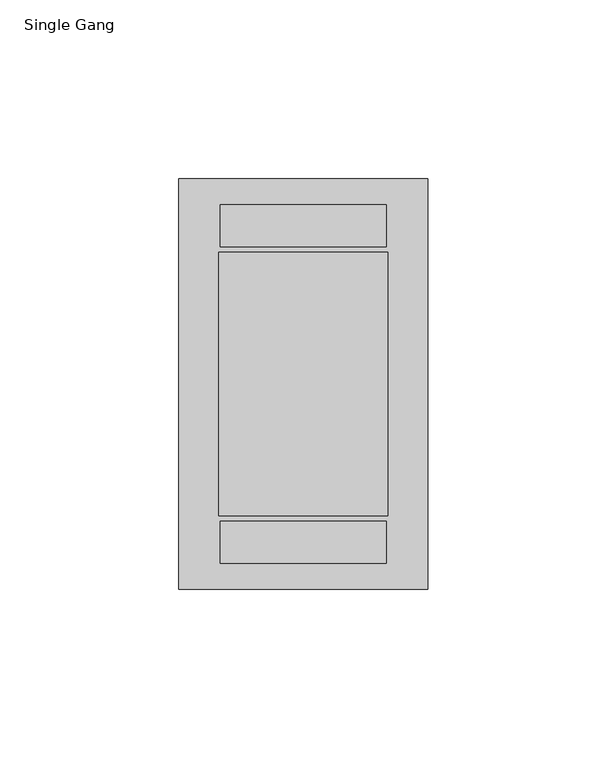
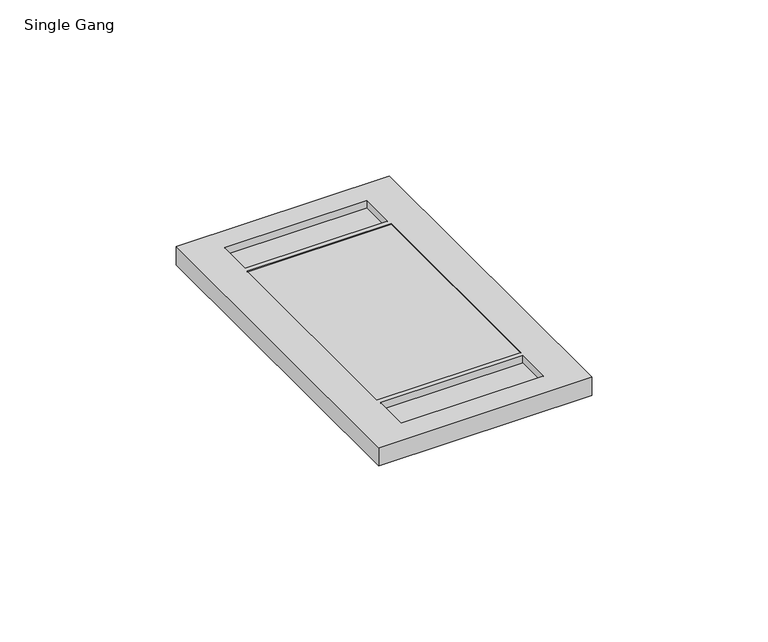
"""IFC4 building model written with IfcOpenShell, lengths in millimetres: electric appliance geometry, Data_Device-Work_Area-Leviton-MOS-Wallplate : Single Gang."""

from ifc_helpers import new_model, si_unit, origin, origin_with_axes, place, context, project, spatial, polyline, outline, extrude, faceted_brep, source, transform, mapped, element, save


def single_gang_8845d006(model_context):
    return source(origin(), model_context, "Body", "SolidModel", [
        faceted_brep([(0.2159, 58.3565, 3.81), (-46.2661, 58.3565, 3.81), (-46.2661, 46.6725, 3.81), (0.2159, 46.6725, 3.81), (0.2159, -41.9735, 3.81), (0.2159, -30.2895, 3.81), (-46.2661, -30.2895, 3.81), (-46.2661, -41.9735, 3.81), (0.2159, 58.3565, 6.35), (-46.2661, 58.3565, 6.35), (-46.2661, 46.6725, 6.35), (0.2159, 46.6725, 6.35), (0.2159, -41.9735, 6.35), (0.2159, -30.2895, 6.35), (-46.2661, -30.2895, 6.35), (-46.2661, -41.9735, 6.35), (-46.6471, 45.0215, 6.35), (-46.6471, 45.0215, 0.0), (0.5969, 45.0215, 0.0), (0.5969, 45.0215, 6.35), (-46.6471, -28.6385, 6.35), (-46.6471, -28.6385, 0.0), (0.5969, -28.6385, 6.35), (0.5969, -28.6385, 0.0), (11.8999, 65.7225, 6.35), (-57.9501, 65.7225, 6.35), (-57.9501, -49.3395, 6.35), (11.8999, -49.3395, 6.35), (11.8999, 65.7225, 0.0), (11.8999, -49.3395, 0.0), (-57.9501, -49.3395, 0.0), (-57.9501, 65.7225, 0.0)], [[[0, 1, 2, 3]], [[4, 5, 6, 7]], [[1, 0, 8, 9]], [[2, 1, 9, 10]], [[3, 2, 10, 11]], [[0, 3, 11, 8]], [[5, 4, 12, 13]], [[6, 5, 13, 14]], [[7, 6, 14, 15]], [[4, 7, 15, 12]], [[16, 17, 18, 19]], [[17, 16, 20, 21]], [[21, 20, 22, 23]], [[19, 18, 23, 22]], [[24, 25, 26, 27], [9, 8, 11, 10], [13, 12, 15, 14], [16, 19, 22, 20]], [[28, 29, 30, 31], [18, 17, 21, 23]], [[25, 24, 28, 31]], [[26, 25, 31, 30]], [[27, 26, 30, 29]], [[24, 27, 29, 28]]]),
        extrude(outline(polyline([(0.5969, 45.0215), (0.5969, -28.6385), (-46.6471, -28.6385), (-46.6471, 45.0215), (0.5969, 45.0215)])), origin_with_axes(), (0.0, 0.0, 1.0), 6.35),
        extrude(outline(polyline([(11.6459, 65.7225), (11.6459, -49.0855), (-57.6961, -49.0855), (-57.6961, 65.7225), (11.6459, 65.7225)])), origin_with_axes(), (0.0, 0.0, 1.0), 0.254),
    ])


if __name__ == "__main__":
    model = new_model("IFC4")
    model_context = context("Model", 3, world=origin())
    ifc_project = project(units=[si_unit("LENGTHUNIT", "METRE", prefix="MILLI")], contexts=[model_context])
    site = spatial("IfcSite", under=ifc_project)
    building = spatial("IfcBuilding", under=site)
    placement = place(None, origin())
    single_gang_shape = single_gang_8845d006(model_context)
    element("IfcElectricAppliance", 1, ObjectType="Data_Device-Work_Area-Leviton-MOS-Wallplate : Single Gang", at=placement, inside=building, context=model_context, shape_type="MappedRepresentation", body=[
        mapped(single_gang_shape, transform((0.0, 0.0, 0.0), x_axis=(1.0, 0.0, 0.0), y_axis=(0.0, 1.0, 0.0), z_axis=(0.0, 0.0, 1.0))),
    ])
    save(model, "model.ifc")
